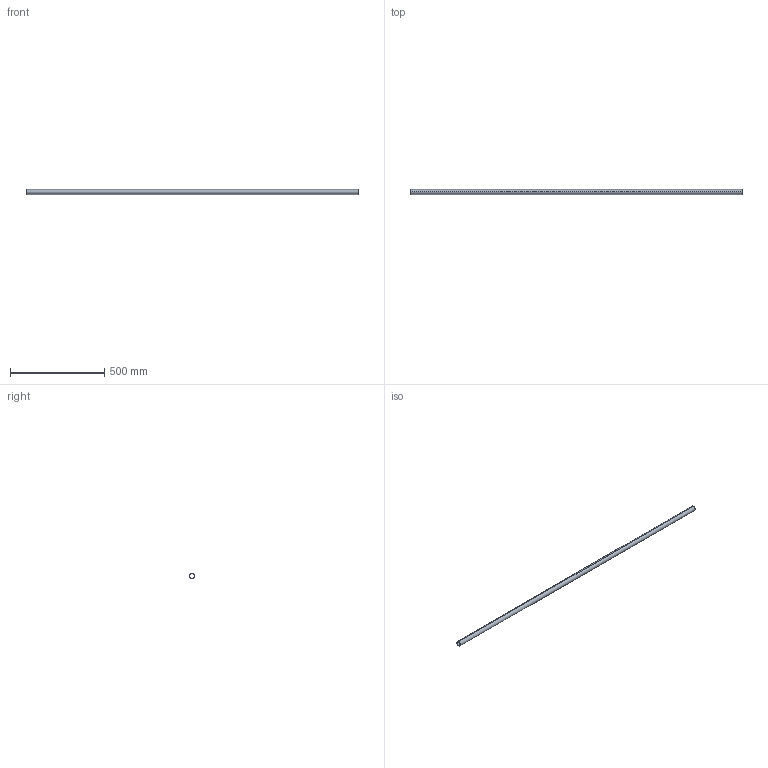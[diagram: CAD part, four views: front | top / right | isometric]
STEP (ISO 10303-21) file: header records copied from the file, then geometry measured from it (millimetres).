
FILE_DESCRIPTION (( 'STEP AP214' ), '1' );
FILE_NAME ('CCJ029-REP.350 - LISSE GARDE CORPS COUPEE.STEP', '2025-10-30T15:29:28', ( '' ), ( '' ), 'SwSTEP 2.0', 'SolidWorks 2021', '' );
FILE_SCHEMA (( 'AUTOMOTIVE_DESIGN' ));
Length unit declared in the file: millimetre
Products named in the file (1): CCJ029-REP.350 - LISSE GARDE CORPS COUPEE
Bounding box: 1760 x 26.9 x 26.9 mm (x, y, z)
Volume: 275354.3 mm3; surface area: 275667.2 mm2
Topology: 1 solids, 1 shells, 6 faces, 12 edges, 8 vertices
Faces by surface type: cylinder 4, plane 2
Entity records: 202 total; most frequent: DIRECTION 34, CARTESIAN_POINT 27, ORIENTED_EDGE 24, AXIS2_PLACEMENT_3D 15, EDGE_CURVE 12, EDGE_LOOP 8, VERTEX_POINT 8, CIRCLE 8
